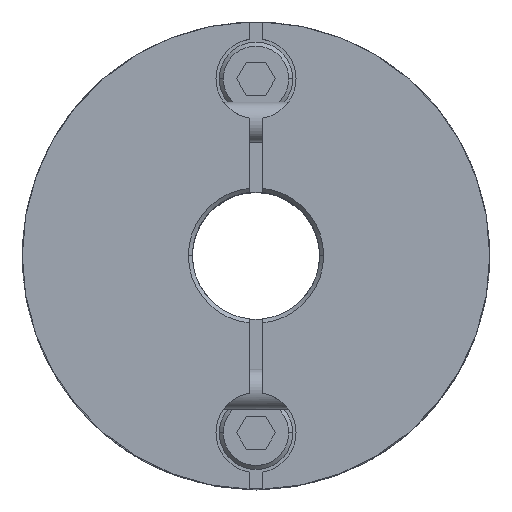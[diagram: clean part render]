
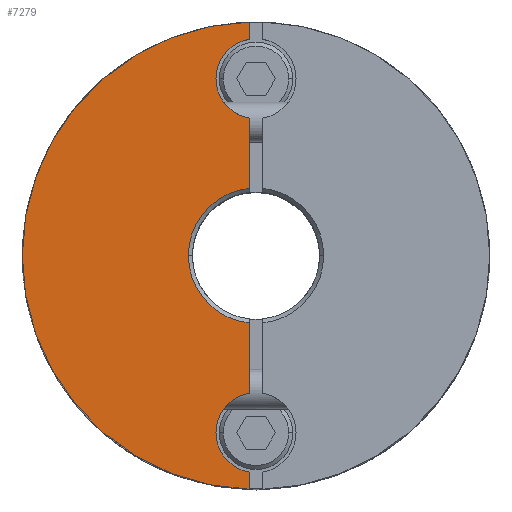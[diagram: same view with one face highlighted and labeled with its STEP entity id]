
A CAD part, top view. The second image highlights one B-rep face of the part: STEP entity #7279.
In plain terms, the highlighted planar face has unit normal (0, 0, 1).
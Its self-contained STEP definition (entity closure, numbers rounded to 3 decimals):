
#751=CARTESIAN_POINT('',(-5.063,0.,13.5));
#752=VERTEX_POINT('',#751);
#759=CARTESIAN_POINT('',(-0.5,-5.038,13.5));
#760=VERTEX_POINT('',#759);
#761=CARTESIAN_POINT('',(0.0,0.,13.5));
#762=DIRECTION('',(0.0,0.0,1.0));
#763=DIRECTION('',(1.0,0.0,0.0));
#764=AXIS2_PLACEMENT_3D('',#761,#762,#763);
#765=CIRCLE('',#764,5.063);
#766=EDGE_CURVE('',#752,#760,#765,.T.);
#831=CARTESIAN_POINT('',(-17.5,0.,13.5));
#832=VERTEX_POINT('',#831);
#916=CARTESIAN_POINT('',(-0.5,-17.493,13.5));
#917=VERTEX_POINT('',#916);
#924=CARTESIAN_POINT('',(0.0,0.,13.5));
#925=DIRECTION('',(0.0,0.0,-1.0));
#926=DIRECTION('',(-1.0,0.0,0.0));
#927=AXIS2_PLACEMENT_3D('',#924,#925,#926);
#928=CIRCLE('',#927,17.5);
#929=EDGE_CURVE('',#917,#832,#928,.T.);
#1353=CARTESIAN_POINT('',(-3.,-13.25,13.5));
#1354=VERTEX_POINT('',#1353);
#1363=CARTESIAN_POINT('',(-0.5,-16.208,13.5));
#1364=VERTEX_POINT('',#1363);
#1365=CARTESIAN_POINT('',(0.,-13.25,13.5));
#1366=DIRECTION('',(0.0,0.0,-1.0));
#1367=DIRECTION('',(-1.0,0.0,0.0));
#1368=AXIS2_PLACEMENT_3D('',#1365,#1366,#1367);
#1369=CIRCLE('',#1368,3.0);
#1370=EDGE_CURVE('',#1364,#1354,#1369,.T.);
#1585=CARTESIAN_POINT('',(-3.,13.25,13.5));
#1586=VERTEX_POINT('',#1585);
#1595=CARTESIAN_POINT('',(-0.5,10.292,13.5));
#1596=VERTEX_POINT('',#1595);
#1597=CARTESIAN_POINT('',(0.,13.25,13.5));
#1598=DIRECTION('',(0.0,0.0,-1.0));
#1599=DIRECTION('',(-1.0,0.0,0.0));
#1600=AXIS2_PLACEMENT_3D('',#1597,#1598,#1599);
#1601=CIRCLE('',#1600,3.0);
#1602=EDGE_CURVE('',#1596,#1586,#1601,.T.);
#5986=CARTESIAN_POINT('',(-0.5,16.208,13.5));
#5987=VERTEX_POINT('',#5986);
#5994=CARTESIAN_POINT('',(0.,13.25,13.5));
#5995=DIRECTION('',(0.0,0.0,-1.0));
#5996=DIRECTION('',(-1.0,0.0,0.0));
#5997=AXIS2_PLACEMENT_3D('',#5994,#5995,#5996);
#5998=CIRCLE('',#5997,3.0);
#5999=EDGE_CURVE('',#1586,#5987,#5998,.T.);
#6401=CARTESIAN_POINT('',(-0.5,-10.292,13.5));
#6402=VERTEX_POINT('',#6401);
#6409=CARTESIAN_POINT('',(0.,-13.25,13.5));
#6410=DIRECTION('',(0.0,0.0,-1.0));
#6411=DIRECTION('',(-1.0,0.0,0.0));
#6412=AXIS2_PLACEMENT_3D('',#6409,#6410,#6411);
#6413=CIRCLE('',#6412,3.0);
#6414=EDGE_CURVE('',#1354,#6402,#6413,.T.);
#6563=CARTESIAN_POINT('',(-0.5,5.038,13.5));
#6564=VERTEX_POINT('',#6563);
#6565=CARTESIAN_POINT('',(-0.5,5.038,13.5));
#6566=DIRECTION('',(0.0,1.0,0.0));
#6567=VECTOR('',#6566,5.254);
#6568=LINE('',#6565,#6567);
#6569=EDGE_CURVE('',#6564,#1596,#6568,.T.);
#6620=CARTESIAN_POINT('',(-0.5,-10.292,13.5));
#6621=DIRECTION('',(0.0,1.0,0.0));
#6622=VECTOR('',#6621,5.254);
#6623=LINE('',#6620,#6622);
#6624=EDGE_CURVE('',#6402,#760,#6623,.T.);
#7225=CARTESIAN_POINT('',(-0.5,-17.493,13.5));
#7226=DIRECTION('',(0.0,1.0,0.0));
#7227=VECTOR('',#7226,1.285);
#7228=LINE('',#7225,#7227);
#7229=EDGE_CURVE('',#917,#1364,#7228,.T.);
#7241=CARTESIAN_POINT('',(-1.591,0.,13.5));
#7242=DIRECTION('',(0.0,0.0,1.0));
#7243=DIRECTION('',(-1.0,0.0,0.0));
#7244=AXIS2_PLACEMENT_3D('',#7241,#7242,#7243);
#7245=PLANE('',#7244);
#7246=ORIENTED_EDGE('',*,*,#1370,.T.);
#7247=ORIENTED_EDGE('',*,*,#6414,.T.);
#7248=ORIENTED_EDGE('',*,*,#6624,.T.);
#7249=ORIENTED_EDGE('',*,*,#766,.F.);
#7250=CARTESIAN_POINT('',(0.0,0.,13.5));
#7251=DIRECTION('',(0.0,0.0,1.0));
#7252=DIRECTION('',(1.0,0.0,0.0));
#7253=AXIS2_PLACEMENT_3D('',#7250,#7251,#7252);
#7254=CIRCLE('',#7253,5.063);
#7255=EDGE_CURVE('',#6564,#752,#7254,.T.);
#7256=ORIENTED_EDGE('',*,*,#7255,.F.);
#7257=ORIENTED_EDGE('',*,*,#6569,.T.);
#7258=ORIENTED_EDGE('',*,*,#1602,.T.);
#7259=ORIENTED_EDGE('',*,*,#5999,.T.);
#7260=CARTESIAN_POINT('',(-0.5,17.493,13.5));
#7261=VERTEX_POINT('',#7260);
#7262=CARTESIAN_POINT('',(-0.5,16.208,13.5));
#7263=DIRECTION('',(0.0,1.0,0.0));
#7264=VECTOR('',#7263,1.285);
#7265=LINE('',#7262,#7264);
#7266=EDGE_CURVE('',#5987,#7261,#7265,.T.);
#7267=ORIENTED_EDGE('',*,*,#7266,.T.);
#7268=CARTESIAN_POINT('',(0.0,0.,13.5));
#7269=DIRECTION('',(0.0,0.0,-1.0));
#7270=DIRECTION('',(-1.0,0.0,0.0));
#7271=AXIS2_PLACEMENT_3D('',#7268,#7269,#7270);
#7272=CIRCLE('',#7271,17.5);
#7273=EDGE_CURVE('',#832,#7261,#7272,.T.);
#7274=ORIENTED_EDGE('',*,*,#7273,.F.);
#7275=ORIENTED_EDGE('',*,*,#929,.F.);
#7276=ORIENTED_EDGE('',*,*,#7229,.T.);
#7277=EDGE_LOOP('',(#7246,#7247,#7248,#7249,#7256,#7257,#7258,#7259,#7267,#7274,#7275,#7276));
#7278=FACE_OUTER_BOUND('',#7277,.T.);
#7279=ADVANCED_FACE('',(#7278),#7245,.T.);
